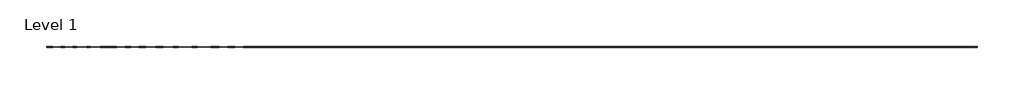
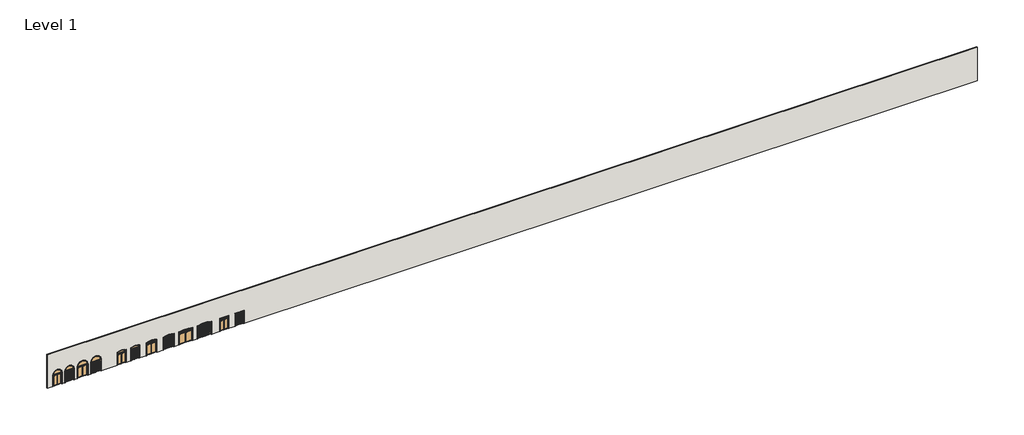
# One storey: 12 doors, 1 wall.
"""IFC4 building model written with IfcOpenShell, lengths in millimetres."""

from ifc_helpers import new_model, si_unit, point, frame, frame_2d, origin, place, context, project, spatial, polyline, circle_curve, trimmed, segment, composite_curve, outline, extrude, transform, mapped, element, save
from components import door_0f02b388, door_ad6125d4, door_06a20bcf, door_b61d0d93, door_bd5e4fd7, door_c7962197, door_0574b60c, door_ecc9013e, door_0cb5d929, door_ef641ad4, door_6cfcc16c, door_398cb47a

model = new_model("IFC4")

# Units and contexts
model_context = context("Model", 3, world=origin())
ifc_project = project(units=[si_unit("LENGTHUNIT", "METRE", prefix="MILLI")], contexts=[model_context])

# Site, building, storey
site = spatial("IfcSite", under=ifc_project)
building = spatial("IfcBuilding", under=site)
storey = spatial("IfcBuildingStorey", under=building, Name="Level 1", Elevation=0.0)

# Doors
placement = place(None, origin())
door_shape = door_0f02b388(model_context)
element("IfcDoor", 1, ObjectType="Pollard_Windows_Vistador Patio Doors_ATS_Rectangular : AVDR6080-ATS6016", at=placement, inside=storey, context=model_context, shape_type="MappedRepresentation", body=[
    mapped(door_shape, transform((31858.7696019, 1275.9133896, 0.0), x_axis=(-1.0, 0.0, 0.0), y_axis=(0.0, -1.0, 0.0), z_axis=(0.0, 0.0, 1.0))),
])
door_2_shape = door_ad6125d4(model_context)
element("IfcDoor", 2, ObjectType="Pollard_Windows_Vistador Patio Doors_ATS_Rectangular : AVDR6080-ATS6016_GC", at=placement, inside=storey, context=model_context, shape_type="MappedRepresentation", body=[
    mapped(door_2_shape, transform((34601.9696019, 1275.9133896, 0.0), x_axis=(-1.0, 0.0, 0.0), y_axis=(0.0, -1.0, 0.0), z_axis=(0.0, 0.0, 1.0))),
])
door_3_shape = door_06a20bcf(model_context)
element("IfcDoor", 3, ObjectType="Pollard_Windows_Vistador Patio Doors_ATS_Extended Segmental : AVDR6080-EST1506", at=placement, inside=storey, context=model_context, shape_type="MappedRepresentation", body=[
    mapped(door_3_shape, transform((13570.7696019, 1275.9133896, 0.0), x_axis=(-1.0, 0.0, 0.0), y_axis=(0.0, -1.0, 0.0), z_axis=(0.0, 0.0, 1.0))),
])
door_4_shape = door_b61d0d93(model_context)
element("IfcDoor", 4, ObjectType="Pollard_Windows_Vistador Patio Doors_ATS_Extended Segmental : AVDR6080-EST1506_GC", at=placement, inside=storey, context=model_context, shape_type="MappedRepresentation", body=[
    mapped(door_4_shape, transform((16009.1696019, 1275.9133896, 0.0), x_axis=(-1.0, 0.0, 0.0), y_axis=(0.0, -1.0, 0.0), z_axis=(0.0, 0.0, 1.0))),
])
door_5_shape = door_bd5e4fd7(model_context)
element("IfcDoor", 5, ObjectType="Pollard_Windows_Vistador Patio Doors_ATS_Extended Segmental : AVDR7180-ESW1806", at=placement, inside=storey, context=model_context, shape_type="MappedRepresentation", body=[
    mapped(door_5_shape, transform((18904.7696019, 1275.9133896, 0.0), x_axis=(-1.0, 0.0, 0.0), y_axis=(0.0, -1.0, 0.0), z_axis=(0.0, 0.0, 1.0))),
])
door_6_shape = door_c7962197(model_context)
element("IfcDoor", 6, ObjectType="Pollard_Windows_Vistador Patio Doors_ATS_Extended Segmental : AVDR7180-ESW1806_GC", at=placement, inside=storey, context=model_context, shape_type="MappedRepresentation", body=[
    mapped(door_6_shape, transform((21952.7696019, 1275.9133896, 0.0), x_axis=(-1.0, 0.0, 0.0), y_axis=(0.0, -1.0, 0.0), z_axis=(0.0, 0.0, 1.0))),
])
door_7_shape = door_0574b60c(model_context)
element("IfcDoor", 7, ObjectType="Pollard_Windows_Vistador Patio Doors_ATS_Extended Segmental : AVDR9580-ESW2406", at=placement, inside=storey, context=model_context, shape_type="MappedRepresentation", body=[
    mapped(door_7_shape, transform((25000.7696019, 1275.9133896, 0.0), x_axis=(-1.0, 0.0, 0.0), y_axis=(0.0, -1.0, 0.0), z_axis=(0.0, 0.0, 1.0))),
])
door_8_shape = door_ecc9013e(model_context)
element("IfcDoor", 8, ObjectType="Pollard_Windows_Vistador Patio Doors_ATS_Extended Segmental : AVDR9580-ESW2406_GC", at=placement, inside=storey, context=model_context, shape_type="MappedRepresentation", body=[
    mapped(door_8_shape, transform((28353.5696019, 1275.9133896, 0.0), x_axis=(-1.0, 0.0, 0.0), y_axis=(0.0, -1.0, 0.0), z_axis=(0.0, 0.0, 1.0))),
])
door_9_shape = door_0cb5d929(model_context)
element("IfcDoor", 9, ObjectType="Pollard_Windows_Vistador Patio Doors_ATS_Half Round : AVDR6080-HRW1506", at=placement, inside=storey, context=model_context, shape_type="MappedRepresentation", body=[
    mapped(door_9_shape, transform((2140.7696019, 1275.9133896, 0.0), x_axis=(-1.0, 0.0, 0.0), y_axis=(0.0, -1.0, 0.0), z_axis=(0.0, 0.0, 1.0))),
])
door_10_shape = door_ef641ad4(model_context)
element("IfcDoor", 10, ObjectType="Pollard_Windows_Vistador Patio Doors_ATS_Half Round : AVDR6080-HRW1506_GC", at=placement, inside=storey, context=model_context, shape_type="MappedRepresentation", body=[
    mapped(door_10_shape, transform((4274.3696019, 1275.9133896, 0.0), x_axis=(-1.0, 0.0, 0.0), y_axis=(0.0, -1.0, 0.0), z_axis=(0.0, 0.0, 1.0))),
])
door_11_shape = door_6cfcc16c(model_context)
element("IfcDoor", 11, ObjectType="Pollard_Windows_Vistador Patio Doors_ATS_Half Round : AVDR7180-HRW1800", at=placement, inside=storey, context=model_context, shape_type="MappedRepresentation", body=[
    mapped(door_11_shape, transform((6611.1696019, 1275.9133896, 0.0), x_axis=(-1.0, 0.0, 0.0), y_axis=(0.0, -1.0, 0.0), z_axis=(0.0, 0.0, 1.0))),
])
door_12_shape = door_398cb47a(model_context)
element("IfcDoor", 12, ObjectType="Pollard_Windows_Vistador Patio Doors_ATS_Half Round : AVDR7180-HRW1800_GC", at=placement, inside=storey, context=model_context, shape_type="MappedRepresentation", body=[
    mapped(door_12_shape, transform((8998.7696019, 1275.9133896, 0.0), x_axis=(-1.0, 0.0, 0.0), y_axis=(0.0, -1.0, 0.0), z_axis=(0.0, 0.0, 1.0))),
])

# Wall
element("IfcWall", 13, ObjectType="Wall 1", at=placement, inside=storey, context=model_context, shape_type="SweptSolid", body=[
    extrude(outline(polyline([(0.0, 166123.1696019), (6350.0, 166123.1696019), (6350.0, 311.9696019), (0.0, 311.9696019), (0.0, 1390.6822019), (2019.3, 1390.6822019), (2019.3, 2890.8570019), (0.0, 2890.8570019), (0.0, 3524.2822019), (2019.3, 3524.2822019), (2019.3, 5024.4570019), (0.0, 5024.4570019), (0.0, 5711.0571019), (2019.3, 5711.0571019), (2019.3, 7511.2821019), (0.0, 7511.2821019), (0.0, 8098.6571019), (2019.3, 8098.6571019), (2019.3, 9898.8821019), (0.0, 9898.8821019), (0.0, 12820.6822019), (2019.3, 12820.6822019), (2019.3, 14320.8570019), (0.0, 14320.8570019), (0.0, 15259.0822019), (2019.3, 15259.0822019), (2019.3, 16759.2570019), (0.0, 16759.2570019), (0.0, 18004.6571019), (2019.3, 18004.6571019), (2019.3, 19804.8821019), (0.0, 19804.8821019), (0.0, 21052.6571019), (2019.3, 21052.6571019), (2019.3, 22852.8821019), (0.0, 22852.8821019), (0.0, 23800.6196019), (2019.3, 23800.6196019), (2019.3, 26200.9196019), (0.0, 26200.9196019), (0.0, 27153.4196019), (2019.3, 27153.4196019), (2019.3, 29553.7196019), (0.0, 29553.7196019), (0.0, 31108.6822019), (2019.3, 31108.6822019), (2019.3, 32608.8570019), (0.0, 32608.8570019), (0.0, 33851.8822019), (2019.3, 33851.8822019), (2019.3, 35352.0570019), (0.0, 35352.0570019), (0.0, 166123.1696019)]), holes=[composite_curve([segment(trimmed(circle_curve(frame_2d((2155.698, 2140.7696019)), 750.0874), [point((2905.7854, 2140.7696019))], [point((2155.698, 2890.8570019))], True, "CARTESIAN"), True, "CONTINUOUS"), segment(polyline([(2155.698, 2890.8570019), (2155.698, 1390.6822019)]), True, "CONTINUOUS"), segment(trimmed(circle_curve(frame_2d((2155.698, 2140.7696019)), 750.0874), [point((2155.698, 1390.6822019))], [point((2905.7854, 2140.7696019))], True, "CARTESIAN"), True, "CONTINUOUS")], self_intersect=False), composite_curve([segment(trimmed(circle_curve(frame_2d((2155.698, 4274.3696019)), 750.0874), [point((2905.7854, 4274.3696019))], [point((2155.698, 5024.4570019))], True, "CARTESIAN"), True, "CONTINUOUS"), segment(polyline([(2155.698, 5024.4570019), (2155.698, 3524.2822019)]), True, "CONTINUOUS"), segment(trimmed(circle_curve(frame_2d((2155.698, 4274.3696019)), 750.0874), [point((2155.698, 3524.2822019))], [point((2905.7854, 4274.3696019))], True, "CARTESIAN"), True, "CONTINUOUS")], self_intersect=False), composite_curve([segment(trimmed(circle_curve(frame_2d((2155.698, 6611.1696019)), 900.1125), [point((3055.8105, 6611.1696019))], [point((2155.698, 7511.2821019))], True, "CARTESIAN"), True, "CONTINUOUS"), segment(polyline([(2155.698, 7511.2821019), (2155.698, 5711.0571019)]), True, "CONTINUOUS"), segment(trimmed(circle_curve(frame_2d((2155.698, 6611.1696019)), 900.1125), [point((2155.698, 5711.0571019))], [point((3055.8105, 6611.1696019))], True, "CARTESIAN"), True, "CONTINUOUS")], self_intersect=False), composite_curve([segment(trimmed(circle_curve(frame_2d((2155.698, 8998.7696019)), 900.1125), [point((3055.8105, 8998.7696019))], [point((2155.698, 9898.8821019))], True, "CARTESIAN"), True, "CONTINUOUS"), segment(polyline([(2155.698, 9898.8821019), (2155.698, 8098.6571019)]), True, "CONTINUOUS"), segment(trimmed(circle_curve(frame_2d((2155.698, 8998.7696019)), 900.1125), [point((2155.698, 8098.6571019))], [point((3055.8105, 8998.7696019))], True, "CARTESIAN"), True, "CONTINUOUS")], self_intersect=False), composite_curve([segment(polyline([(2422.525, 14353.8770019), (2122.678, 14353.8770019), (2122.678, 12787.6622019), (2422.525, 12787.6622019)]), True, "CONTINUOUS"), segment(trimmed(circle_curve(frame_2d((879.5048206, 13570.7696019)), 1730.3665721), [point((2422.525, 12787.6622019))], [point((2422.525, 14353.8770019))], True, "CARTESIAN"), True, "CONTINUOUS")], self_intersect=False), composite_curve([segment(polyline([(2422.525, 16792.2770019), (2122.678, 16792.2770019), (2122.678, 15226.0622019), (2422.525, 15226.0622019)]), True, "CONTINUOUS"), segment(trimmed(circle_curve(frame_2d((879.5048206, 16009.1696019)), 1730.3665721), [point((2422.525, 15226.0622019))], [point((2422.525, 16792.2770019))], True, "CARTESIAN"), True, "CONTINUOUS")], self_intersect=False), composite_curve([segment(polyline([(2422.525, 19837.9021019), (2122.678, 19837.9021019), (2122.678, 17971.6371019), (2422.525, 17971.6371019)]), True, "CONTINUOUS"), segment(trimmed(circle_curve(frame_2d((192.3310275, 18904.7696019)), 2417.5403652), [point((2422.525, 17971.6371019))], [point((2422.525, 19837.9021019))], True, "CARTESIAN"), True, "CONTINUOUS")], self_intersect=False), composite_curve([segment(polyline([(2422.525, 22885.9021019), (2122.678, 22885.9021019), (2122.678, 21019.6371019), (2422.525, 21019.6371019)]), True, "CONTINUOUS"), segment(trimmed(circle_curve(frame_2d((192.3310275, 21952.7696019)), 2417.5403652), [point((2422.525, 21019.6371019))], [point((2422.525, 22885.9021019))], True, "CARTESIAN"), True, "CONTINUOUS")], self_intersect=False), composite_curve([segment(polyline([(2422.525, 26233.9396019), (2122.678, 26233.9396019), (2122.678, 23767.5996019), (2422.525, 23767.5996019)]), True, "CONTINUOUS"), segment(trimmed(circle_curve(frame_2d((-1542.3487196, 25000.7696019)), 4152.2201123), [point((2422.525, 23767.5996019))], [point((2422.525, 26233.9396019))], True, "CARTESIAN"), True, "CONTINUOUS")], self_intersect=False), composite_curve([segment(polyline([(2422.525, 29586.7396019), (2122.678, 29586.7396019), (2122.678, 27120.3996019), (2422.525, 27120.3996019)]), True, "CONTINUOUS"), segment(trimmed(circle_curve(frame_2d((-1542.3487196, 28353.5696019)), 4152.2201123), [point((2422.525, 27120.3996019))], [point((2422.525, 29586.7396019))], True, "CARTESIAN"), True, "CONTINUOUS")], self_intersect=False), polyline([(2122.678, 31075.6622019), (2452.37, 31075.6622019), (2452.37, 32641.8770019), (2122.678, 32641.8770019), (2122.678, 31075.6622019)]), polyline([(2122.678, 33818.8622019), (2452.37, 33818.8622019), (2452.37, 35385.0770019), (2122.678, 35385.0770019), (2122.678, 33818.8622019)])]), frame((0.0, 1174.3133896, 0.0), z_axis=(0.0, 1.0, 0.0), x_axis=(0.0, 0.0, 1.0)), (0.0, 0.0, 1.0), 203.2),
])

save(model, "model.ifc")
